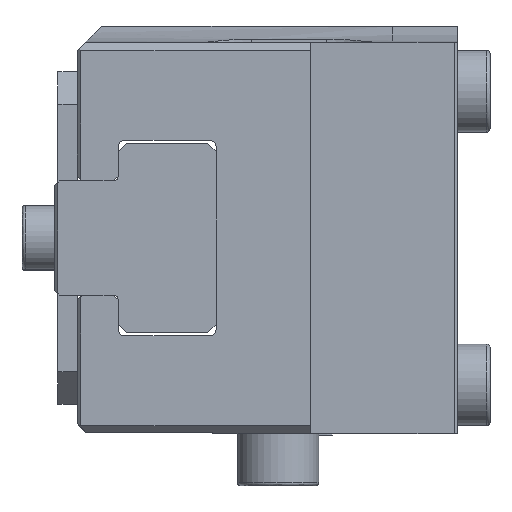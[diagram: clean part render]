
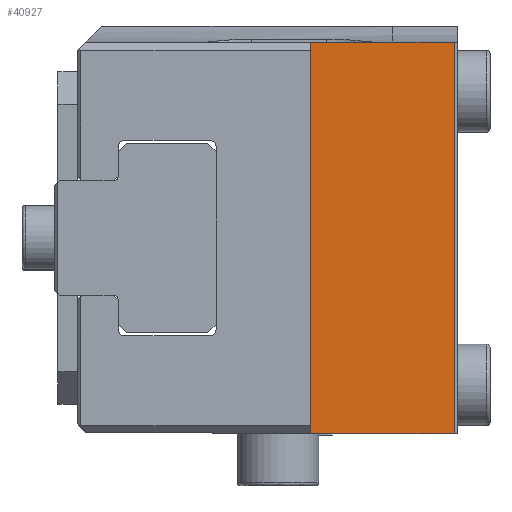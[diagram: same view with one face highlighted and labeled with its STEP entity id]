
A CAD part, left-side view. The second image highlights one B-rep face of the part: STEP entity #40927.
In plain terms, the highlighted planar face has unit normal (-1, 0, 0).
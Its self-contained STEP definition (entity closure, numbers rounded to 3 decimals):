
#2058 = CARTESIAN_POINT ( 'NONE',  ( -19., 23.3, 12. ) ) ;
#2405 = VECTOR ( 'NONE', #26425, 1000. ) ;
#3541 = AXIS2_PLACEMENT_3D ( 'NONE', #30064, #6213, #34062 ) ;
#4716 = EDGE_CURVE ( 'NONE', #7247, #14259, #7667, .T. ) ;
#6052 = DIRECTION ( 'NONE',  ( 0., 1., 0. ) ) ;
#6213 = DIRECTION ( 'NONE',  ( 1., 0., 0. ) ) ;
#7247 = VERTEX_POINT ( 'NONE', #29520 ) ;
#7412 = LINE ( 'NONE', #2058, #36629 ) ;
#7667 = LINE ( 'NONE', #16618, #8892 ) ;
#8892 = VECTOR ( 'NONE', #48438, 1000. ) ;
#9023 = CARTESIAN_POINT ( 'NONE',  ( -19., 0.2, -12. ) ) ;
#10751 = VECTOR ( 'NONE', #31068, 1000. ) ;
#12393 = EDGE_CURVE ( 'NONE', #7247, #32358, #7412, .T. ) ;
#12520 = EDGE_CURVE ( 'NONE', #33614, #14259, #12998, .T. ) ;
#12998 = LINE ( 'NONE', #18431, #2405 ) ;
#14259 = VERTEX_POINT ( 'NONE', #9023 ) ;
#16392 = ORIENTED_EDGE ( 'NONE', *, *, #12393, .T. ) ;
#16618 = CARTESIAN_POINT ( 'NONE',  ( -19., 0.2, -12. ) ) ;
#18431 = CARTESIAN_POINT ( 'NONE',  ( -19., 23.3, -12. ) ) ;
#19728 = CARTESIAN_POINT ( 'NONE',  ( -19., 9., -12. ) ) ;
#20883 = ORIENTED_EDGE ( 'NONE', *, *, #49576, .F. ) ;
#21257 = CARTESIAN_POINT ( 'NONE',  ( -19., 9., 12. ) ) ;
#25259 = ORIENTED_EDGE ( 'NONE', *, *, #12520, .T. ) ;
#26425 = DIRECTION ( 'NONE',  ( 0., -1., 0. ) ) ;
#26712 = CARTESIAN_POINT ( 'NONE',  ( -19., 9., -12. ) ) ;
#29520 = CARTESIAN_POINT ( 'NONE',  ( -19., 0.2, 12. ) ) ;
#30064 = CARTESIAN_POINT ( 'NONE',  ( -19., 0., -12. ) ) ;
#31068 = DIRECTION ( 'NONE',  ( 0., 0., 1. ) ) ;
#32358 = VERTEX_POINT ( 'NONE', #21257 ) ;
#33614 = VERTEX_POINT ( 'NONE', #19728 ) ;
#33684 = EDGE_LOOP ( 'NONE', ( #41412, #16392, #20883, #25259 ) ) ;
#33899 = PLANE ( 'NONE',  #3541 ) ;
#34036 = FACE_OUTER_BOUND ( 'NONE', #33684, .T. ) ;
#34062 = DIRECTION ( 'NONE',  ( 0., 0., -1. ) ) ;
#36629 = VECTOR ( 'NONE', #6052, 1000. ) ;
#40927 = ADVANCED_FACE ( 'NONE', ( #34036 ), #33899, .F. ) ;
#41412 = ORIENTED_EDGE ( 'NONE', *, *, #4716, .F. ) ;
#43722 = LINE ( 'NONE', #26712, #10751 ) ;
#48438 = DIRECTION ( 'NONE',  ( 0., 0., -1. ) ) ;
#49576 = EDGE_CURVE ( 'NONE', #33614, #32358, #43722, .T. ) ;
